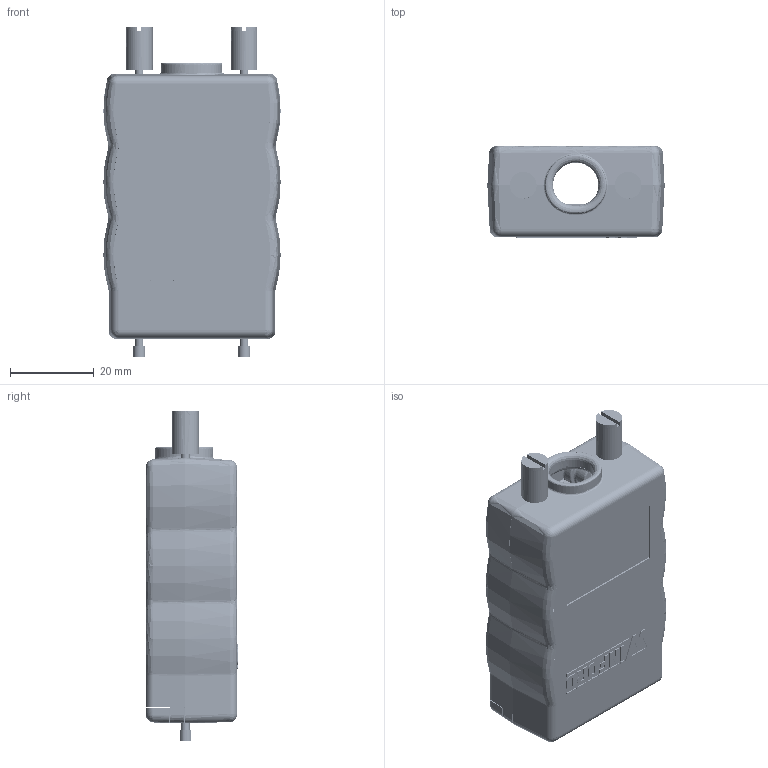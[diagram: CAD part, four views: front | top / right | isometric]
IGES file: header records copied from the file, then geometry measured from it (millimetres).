
Start section: SolidWorks IGES file using analytic representation for surfaces
Global section: file name: W:\end-user\products\ec\ecb9b1\drawings_for_customer\3dmodel\rev_a\render\ecb9b1-t_rev_a.igs; native system: SolidWorks 2018; preprocessor: SolidWorks 2018; author: leviroy; date: 221215.083345; units: inch
Bounding box: 42.23 x 22 x 78.49 mm (x, y, z)
Surface area: 21760.7 mm2 (no closed solid volume)
Topology: 0 solids, 0 shells, 4221 faces, 31299 edges, 31168 vertices
Faces by surface type: bspline 2696, revolution 1525
